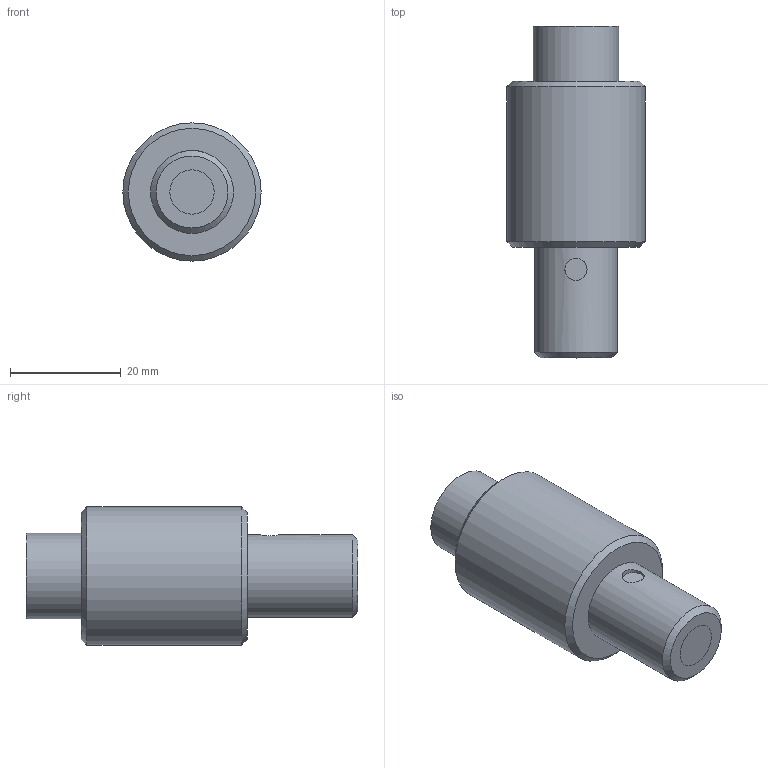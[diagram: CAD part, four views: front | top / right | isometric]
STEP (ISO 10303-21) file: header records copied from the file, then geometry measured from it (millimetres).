
FILE_DESCRIPTION(/* description */ (''),/* implementation_level */ '2;1');
FILE_NAME(/* name */ '',/* time_stamp */ '2023-01-13T13:00:42+09:00',/* author */ (''),/* organization */ (''),/* preprocessor_version */ 'ST-DEVELOPER v19.2',/* originating_system */ 'Autodesk Translation Framework v11.17.0.187',/* authorisation */ '');
FILE_SCHEMA (('AUTOMOTIVE_DESIGN { 1 0 10303 214 3 1 1 }'));
Length unit declared in the file: millimetre
Products named in the file (1): LGA1-8L500N 受光部
Bounding box: 25 x 60 x 25 mm (x, y, z)
Volume: 20039.3 mm3; surface area: 7944.9 mm2
Topology: 3 solids, 3 shells, 18 faces, 29 edges, 19 vertices
Faces by surface type: plane 8, cylinder 7, cone 3
Full cylindrical faces by diameter (mm): 4 x1, 8 x3, 15 x1, 15.5 x1, 25 x1
Entity records: 489 total; most frequent: CARTESIAN_POINT 102, DIRECTION 80, ORIENTED_EDGE 58, AXIS2_PLACEMENT_3D 35, EDGE_CURVE 29, EDGE_LOOP 24, VERTEX_POINT 19, FACE_OUTER_BOUND 18
